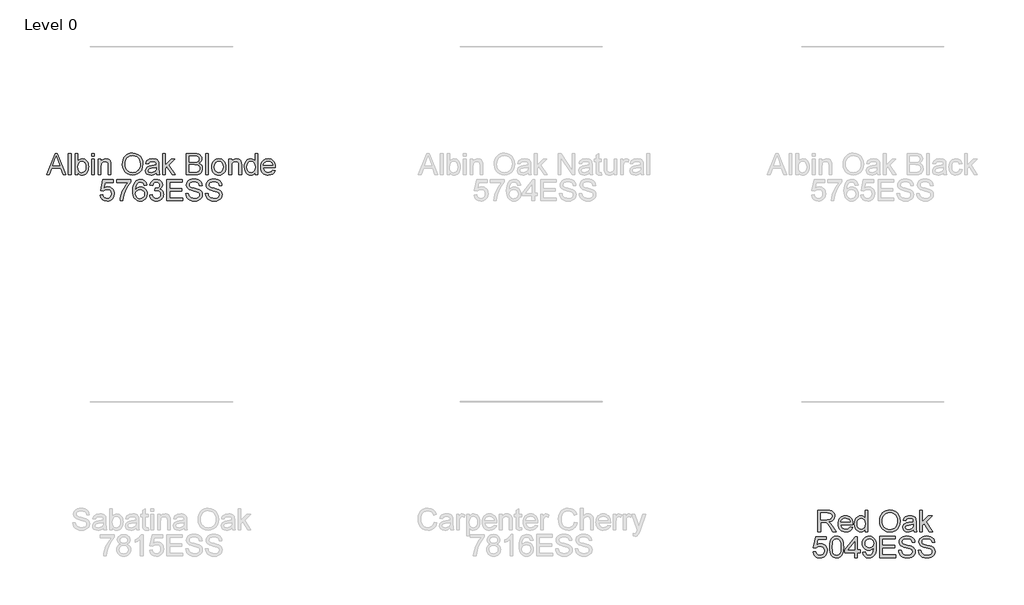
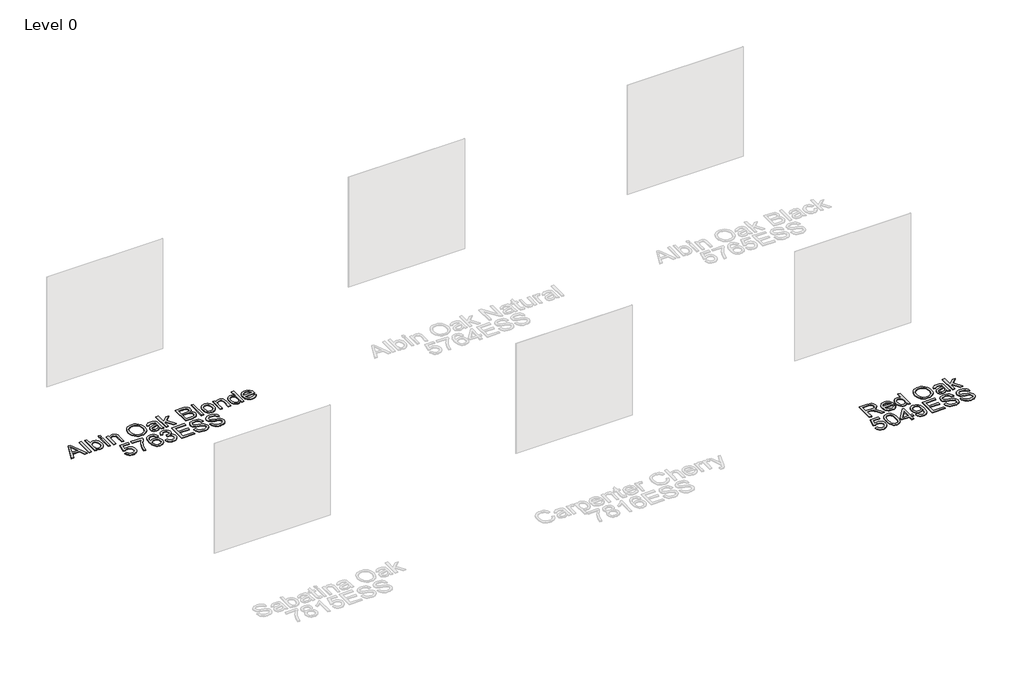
# One storey, part 35 of 43: 2 proxies.
"""IFC4 building model written with IfcOpenShell, lengths in millimetres."""

from ifc_helpers import new_model, si_unit, origin, origin_with_axes, place, context, project, spatial, polyline, outline, extrude, element, save

model = new_model("IFC4")

# Units and contexts
model_context = context("Model", 3, world=origin())
ifc_project = project(units=[si_unit("LENGTHUNIT", "METRE", prefix="MILLI")], contexts=[model_context])

# Site, building, storey
site = spatial("IfcSite", under=ifc_project)
building = spatial("IfcBuilding", under=site)
storey = spatial("IfcBuildingStorey", under=building, Name="Level 0", Elevation=0.0)

# Proxies
placement = place(None, origin())
element("IfcBuildingElementProxy", 1, Name="300mm Arial", ObjectType="300mm Arial", at=placement, inside=storey, context=model_context, shape_type="SweptSolid", body=[
    extrude(outline(polyline([(15934.4135613, -7003.860494), (16054.7109737, -6702.4915635), (16086.7902837, -6702.4915635), (16207.0876961, -7003.860494), (16167.2828642, -7003.860494), (16132.7755331, -6909.6827032), (16008.6521479, -6909.6827032), (15974.2183931, -7003.860494), (15934.4135613, -7003.860494)]), holes=[polyline([(16022.4845109, -6872.0115869), (16119.0167464, -6872.0115869), (16091.8670552, -6797.9201531), (16070.7506287, -6740.1626798), (16051.9886469, -6791.44543), (16022.4845109, -6872.0115869)])]), origin_with_axes(), (0.0, 0.0, 1.0), 10.0),
    extrude(outline(polyline([(16242.6250968, -7003.860494), (16242.6250968, -6702.4915635), (16280.2962131, -6702.4915635), (16280.2962131, -7003.860494), (16242.6250968, -7003.860494)])), origin_with_axes(), (0.0, 0.0, 1.0), 10.0),
    extrude(outline(polyline([(16374.4740039, -7003.860494), (16336.8028876, -7003.860494), (16336.8028876, -6702.4915635), (16374.4740039, -6702.4915635), (16374.4740039, -6814.2541137), (16386.8624301, -6798.3202248), (16400.851143, -6786.9388755), (16416.4401425, -6780.110066), (16433.6294287, -6777.8337961), (16453.035204, -6779.8847383), (16471.3741214, -6786.0375646), (16487.5977174, -6795.9059992), (16500.6575282, -6809.1037657), (16510.8938448, -6825.5021057), (16518.6469578, -6844.9722603), (16523.5305913, -6866.7048891), (16525.1584691, -6889.8906519), (16523.4731097, -6916.64487), (16518.4170316, -6940.1801206), (16509.9902346, -6960.4964038), (16498.1927189, -6977.5937195), (16484.0315613, -6991.1455725), (16468.5138389, -7000.8254675), (16451.6395516, -7006.6334045), (16433.4086995, -7008.5693835), (16415.6537947, -7006.0723845), (16399.9130439, -6998.5813874), (16386.1864469, -6986.0963921), (16374.4740039, -6968.6173988), (16374.4740039, -7003.860494)]), holes=[polyline([(16374.4740039, -6891.6564855), (16377.0491779, -6923.0736078), (16384.7746998, -6944.3371872), (16393.9027718, -6955.9576597), (16404.5115688, -6964.2579972), (16416.6010909, -6969.2381997), (16430.171338, -6970.8982672), (16451.9131639, -6966.0054367), (16470.4912046, -6951.3269451), (16483.2383158, -6926.9547629), (16487.4873528, -6892.9808606), (16483.4130597, -6858.5103177), (16471.1901804, -6834.414047), (16453.1915538, -6820.2321961), (16431.7900187, -6815.5049125), (16410.0481928, -6820.397743), (16391.4701521, -6835.0762346), (16378.7230409, -6859.0069584), (16374.4740039, -6891.6564855)])]), origin_with_axes(), (0.0, 0.0, 1.0), 10.0),
    extrude(outline(polyline([(16567.538475, -6740.1626798), (16567.538475, -6702.4915635), (16605.2095913, -6702.4915635), (16605.2095913, -6740.1626798), (16567.538475, -6740.1626798)])), origin_with_axes(), (0.0, 0.0, 1.0), 10.0),
    extrude(outline(polyline([(16567.538475, -7003.860494), (16567.538475, -6782.5426857), (16605.2095913, -6782.5426857), (16605.2095913, -7003.860494), (16567.538475, -7003.860494)])), origin_with_axes(), (0.0, 0.0, 1.0), 10.0),
    extrude(outline(polyline([(16661.7162657, -7003.860494), (16661.7162657, -6782.5426857), (16699.387382, -6782.5426857), (16699.387382, -6813.4447733), (16712.474784, -6797.8649708), (16728.1925423, -6786.7365404), (16746.5406568, -6780.0594822), (16767.5191275, -6777.8337961), (16786.0879712, -6779.6272209), (16803.0933165, -6785.0074951), (16817.2751674, -6793.303234), (16827.3735282, -6803.8430532), (16838.6675054, -6831.5445674), (16840.6540682, -6867.964885), (16840.6540682, -7003.860494), (16802.9829519, -7003.860494), (16802.9829519, -6873.0416565), (16798.6419443, -6839.7115477), (16792.6362708, -6829.7879309), (16783.3012651, -6822.0900002), (16771.3359032, -6817.1511844), (16757.4391609, -6815.5049125), (16735.3754382, -6819.2021265), (16716.5674712, -6830.2937687), (16709.0511822, -6839.3482643), (16703.6824043, -6851.7228949), (16699.387382, -6886.4325611), (16699.387382, -7003.860494), (16661.7162657, -7003.860494)])), origin_with_axes(), (0.0, 0.0, 1.0), 10.0),
    extrude(outline(polyline([(17000.7563125, -6857.1491543), (17003.2671071, -6821.8002931), (17010.799491, -6790.5073309), (17023.353464, -6763.2702677), (17040.9290264, -6740.0891034), (17062.4731157, -6721.5800406), (17086.9326699, -6708.3592814), (17114.3076888, -6700.4268258), (17144.5981726, -6697.782674), (17184.127093, -6702.7490809), (17219.5725232, -6717.6483017), (17249.0030828, -6741.4318727), (17270.4873913, -6773.0513302), (17283.6207786, -6810.9799639), (17287.9985743, -6853.6910636), (17283.3908523, -6896.9723803), (17269.5676864, -6935.4344429), (17247.2924316, -6967.1090827), (17217.328443, -6990.028131), (17182.1865155, -7003.9340704), (17144.3774434, -7008.5693835), (17104.2415177, -7003.4466267), (17068.5937524, -6988.0783564), (17039.2367692, -6963.853327), (17017.9731899, -6932.1602931), (17005.0605318, -6895.6939903), (17000.7563125, -6857.1491543)]), holes=[polyline([(17038.4274288, -6857.5170363), (17040.3105248, -6882.4916252), (17045.9598126, -6904.661114), (17055.3752925, -6924.0255025), (17068.5569642, -6940.5847908), (17084.5805243, -6953.8469367), (17102.5216694, -6963.3198981), (17122.3803994, -6969.0036749), (17144.1567142, -6970.8982672), (17166.3055096, -6968.9852808), (17186.3987643, -6963.2463217), (17204.4364784, -6953.6813898), (17220.4186518, -6940.2904852), (17233.5037545, -6923.381709), (17242.8502565, -6903.2631624), (17248.4581576, -6879.9348454), (17250.327458, -6853.396758), (17247.1268847, -6820.0482551), (17237.5251646, -6791.2247008), (17221.7706181, -6767.6526619), (17200.1115657, -6750.0587055), (17173.982747, -6739.1050191), (17144.8189018, -6735.4537903), (17123.7990443, -6737.2127261), (17104.2967, -6742.4895335), (17086.311869, -6751.2842124), (17069.8445512, -6763.5967629), (17056.0995601, -6780.0203948), (17046.2817094, -6801.1483176), (17040.3909989, -6826.9805314), (17038.4274288, -6857.5170363)])]), origin_with_axes(), (0.0, 0.0, 1.0), 10.0),
    extrude(outline(polyline([(17476.3541558, -6975.6071568), (17458.3555292, -6991.0398064), (17439.8234737, -7001.1381672), (17420.334925, -7006.7115794), (17399.4668189, -7008.5693835), (17367.9853171, -7004.0996173), (17344.7627662, -6990.6903186), (17330.4429595, -6970.3280501), (17325.6696906, -6944.9993748), (17327.4723124, -6929.3827841), (17332.8801777, -6915.2009331), (17341.221902, -6903.0608273), (17351.8261005, -6893.5694718), (17378.2032395, -6881.2086368), (17410.7975843, -6875.5432541), (17449.3148292, -6869.5835657), (17476.1334267, -6862.5938078), (17476.3541558, -6854.2060983), (17473.7605878, -6837.3938912), (17465.9798836, -6826.3942195), (17448.5790652, -6818.2272392), (17424.3356417, -6815.5049125), (17401.89484, -6817.3167313), (17386.223067, -6822.7521878), (17375.5360951, -6832.8045633), (17368.0496965, -6848.4671392), (17330.3785802, -6843.7582497), (17336.9176826, -6823.156858), (17346.6757525, -6806.9700502), (17360.5632979, -6794.590821), (17379.4908265, -6785.4121652), (17402.6398011, -6779.7283884), (17429.1916841, -6777.8337961), (17454.6583152, -6779.5076592), (17474.8458397, -6784.5292485), (17490.0669572, -6792.0800264), (17500.6343675, -6801.3414556), (17507.6425195, -6812.7917827), (17512.1858622, -6826.9092543), (17514.0252722, -6859.8714811), (17514.0252722, -6906.7396473), (17515.9382585, -6972.1858542), (17523.4430512, -7003.860494), (17485.7719349, -7003.860494), (17476.3541558, -6975.6071568)]), holes=[polyline([(17476.3541558, -6900.2649241), (17415.5800502, -6911.8164188), (17383.1696465, -6917.9232599), (17368.4911549, -6927.8560738), (17363.3408069, -6942.3506244), (17366.1459071, -6953.5526311), (17374.5612078, -6962.7312869), (17388.4027679, -6968.8565221), (17407.4866464, -6970.8982672), (17427.7201561, -6968.64499), (17445.5992211, -6961.8851583), (17460.0937717, -6951.9247533), (17470.1737383, -6940.069756), (17474.6435046, -6927.8560738), (17476.1334267, -6910.933502), (17476.3541558, -6900.2649241)])]), origin_with_axes(), (0.0, 0.0, 1.0), 10.0),
    extrude(outline(polyline([(17565.8230571, -7003.860494), (17565.8230571, -6702.4915635), (17603.4941734, -6702.4915635), (17603.4941734, -6864.4332178), (17687.9598795, -6782.5426857), (17740.05197, -6782.5426857), (17654.5561943, -6865.4632874), (17744.7608595, -7003.860494), (17700.7621729, -7003.860494), (17627.5536559, -6891.6564855), (17603.4941734, -6914.9802039), (17603.4941734, -7003.860494), (17565.8230571, -7003.860494)])), origin_with_axes(), (0.0, 0.0, 1.0), 10.0),
    extrude(outline(polyline([(17900.1542143, -7003.860494), (17900.1542143, -6702.4915635), (18015.154126, -6702.4915635), (18046.7827805, -6704.7080526), (18071.4768594, -6711.3575196), (18090.4043881, -6722.6055116), (18104.7333918, -6738.6175755), (18113.7556977, -6757.4531336), (18116.7631331, -6777.1716086), (18114.2339443, -6795.317388), (18106.6463782, -6812.3779155), (18093.9452523, -6827.3047274), (18076.0753844, -6839.0493601), (18097.4217372, -6850.1961846), (18113.1946777, -6867.1555446), (18122.9343535, -6888.8054), (18126.1809121, -6914.0237108), (18123.9644231, -6935.0389697), (18117.314956, -6954.5275184), (18107.3913392, -6971.1006023), (18095.3524009, -6983.3694669), (18080.60953, -6992.253817), (18062.5741152, -6998.6733578), (18014.2712092, -7003.860494), (17900.1542143, -7003.860494)]), holes=[polyline([(17937.8253306, -6824.9226915), (18006.6192637, -6824.9226915), (18046.7919776, -6821.68533), (18060.8542668, -6816.1027207), (18070.9618247, -6807.7426024), (18077.0594687, -6796.7337336), (18079.0920167, -6783.2048733), (18077.1974245, -6770.071486), (18071.5136476, -6758.630356), (18062.2982037, -6749.7000206), (18049.8086099, -6744.0990172), (18001.3953394, -6740.1626798), (17937.8253306, -6740.1626798), (17937.8253306, -6824.9226915)]), polyline([(17937.8253306, -6966.1893777), (18015.0805496, -6966.1893777), (18043.0395812, -6964.7178497), (18066.6943935, -6956.5140812), (18082.3661665, -6939.7754504), (18086.9738885, -6927.9480443), (18088.5097958, -6914.3915928), (18086.707174, -6898.6462434), (18081.2993087, -6885.1081859), (18071.8539385, -6874.5223815), (18057.938802, -6867.6337912), (18038.2295241, -6863.8538037), (18011.4017296, -6862.5938078), (17937.8253306, -6862.5938078), (17937.8253306, -6966.1893777)])]), origin_with_axes(), (0.0, 0.0, 1.0), 10.0),
    extrude(outline(polyline([(18173.2698075, -7003.860494), (18173.2698075, -6702.4915635), (18210.9409238, -6702.4915635), (18210.9409238, -7003.860494), (18173.2698075, -7003.860494)])), origin_with_axes(), (0.0, 0.0, 1.0), 10.0),
    extrude(outline(polyline([(18258.0298192, -6893.2015898), (18260.0669657, -6864.5389839), (18266.1784054, -6839.8403064), (18276.3641381, -6819.1055575), (18290.624164, -6802.334737), (18304.9807588, -6791.6155754), (18320.8272758, -6783.9590314), (18338.1637148, -6779.3651049), (18356.9900759, -6777.8337961), (18377.7731094, -6779.698498), (18396.5649815, -6785.2926036), (18413.3656924, -6794.6161129), (18428.175242, -6807.669026), (18440.2624648, -6824.0098843), (18448.8961953, -6843.1972296), (18454.0764337, -6865.2310619), (18455.8031798, -6890.1113811), (18452.7497592, -6928.1687735), (18443.5894976, -6957.1394806), (18428.5891092, -6978.8353213), (18408.0153086, -6995.0681143), (18383.5787471, -7005.1940662), (18356.9900759, -7008.5693835), (18335.9035398, -7006.7115794), (18316.9369237, -7001.1381672), (18300.0902276, -6991.8491468), (18285.3634514, -6978.8445183), (18273.4049873, -6962.3450108), (18264.8632273, -6942.5713536), (18259.7381712, -6919.5235466), (18258.0298192, -6893.2015898)]), holes=[polyline([(18295.7009355, -6893.1280134), (18300.0603372, -6927.2214773), (18313.1385421, -6951.5108861), (18332.8202288, -6966.0514219), (18356.9900759, -6970.8982672), (18381.0495584, -6966.0238308), (18400.6944569, -6951.4005215), (18413.7726619, -6926.789216), (18418.1320635, -6891.950791), (18413.7450707, -6858.8506085), (18400.5840923, -6834.8922936), (18380.9116026, -6820.3517577), (18356.9900759, -6815.5049125), (18332.8202288, -6820.3333636), (18313.1385421, -6834.8187172), (18300.0603372, -6859.0529436), (18295.7009355, -6893.1280134)])]), origin_with_axes(), (0.0, 0.0, 1.0), 10.0),
    extrude(outline(polyline([(18498.1831857, -7003.860494), (18498.1831857, -6782.5426857), (18535.854302, -6782.5426857), (18535.854302, -6813.4447733), (18548.9417039, -6797.8649708), (18564.6594622, -6786.7365404), (18583.0075767, -6780.0594822), (18603.9860475, -6777.8337961), (18622.5548912, -6779.6272209), (18639.5602364, -6785.0074951), (18653.7420873, -6793.303234), (18663.8404481, -6803.8430532), (18675.1344253, -6831.5445674), (18677.1209881, -6867.964885), (18677.1209881, -7003.860494), (18639.4498718, -7003.860494), (18639.4498718, -6873.0416565), (18635.1088643, -6839.7115477), (18629.1031907, -6829.7879309), (18619.7681851, -6822.0900002), (18607.8028232, -6817.1511844), (18593.9060808, -6815.5049125), (18571.8423581, -6819.2021265), (18553.0343911, -6830.2937687), (18545.5181021, -6839.3482643), (18540.1493243, -6851.7228949), (18535.854302, -6886.4325611), (18535.854302, -7003.860494), (18498.1831857, -7003.860494)])), origin_with_axes(), (0.0, 0.0, 1.0), 10.0),
    extrude(outline(polyline([(18865.4765696, -7003.860494), (18865.4765696, -6968.3230932), (18854.205585, -6985.9308452), (18840.5525645, -6998.507811), (18824.517508, -7006.0539904), (18806.1004156, -7008.5693835), (18781.7466275, -7004.9273518), (18759.4529786, -6994.0012565), (18740.5806323, -6976.5544529), (18726.4907519, -6953.350296), (18717.7167663, -6925.3268851), (18714.7921044, -6893.422319), (18717.48684, -6861.9132261), (18725.5710469, -6833.4575538), (18739.0355279, -6809.6739828), (18757.871086, -6792.181194), (18780.6521786, -6781.4206456), (18805.9532628, -6777.8337961), (18824.3841508, -6780.3997731), (18840.6813232, -6788.0977038), (18854.4952921, -6799.8975188), (18865.4765696, -6814.7691485), (18865.4765696, -6702.4915635), (18903.1476859, -6702.4915635), (18903.1476859, -7003.860494), (18865.4765696, -7003.860494)]), holes=[polyline([(18752.4632207, -6893.2751662), (18756.7122578, -6927.350236), (18769.4593689, -6951.5844625), (18787.9822274, -6966.069816), (18809.5585064, -6970.8982672), (18831.1255883, -6966.2905452), (18849.1793973, -6952.4673793), (18861.4022765, -6929.1712519), (18865.4765696, -6896.1446458), (18861.3287001, -6860.037028), (18848.8850917, -6835.0026582), (18830.3714302, -6820.3793489), (18808.013402, -6815.5049125), (18786.2163938, -6820.1862108), (18768.3557229, -6834.230106), (18756.4363463, -6858.3539678), (18752.4632207, -6893.2751662)])]), origin_with_axes(), (0.0, 0.0, 1.0), 10.0),
    extrude(outline(polyline([(19114.6062568, -6937.9360404), (19151.5416091, -6942.64493), (19138.2334779, -6970.4752029), (19116.9974897, -6991.2789297), (19088.3118912, -7004.2467701), (19052.6549288, -7008.5693835), (19029.2806265, -7006.7046817), (19008.4539071, -7001.1105761), (18990.1747704, -6991.7870668), (18974.4432166, -6978.7341537), (18961.7926745, -6962.3151204), (18952.756573, -6942.8932503), (18947.3349121, -6920.4685435), (18945.5276918, -6895.0409998), (18947.3533062, -6868.7512327), (18952.8301494, -6845.5792656), (18961.9582214, -6825.5250983), (18974.7375222, -6808.5887309), (18990.4276893, -6795.133447), (19008.2883602, -6785.5225298), (19028.3195348, -6779.7559796), (19050.5212132, -6777.8337961), (19072.007821, -6779.751381), (19091.4388881, -6785.5041357), (19108.8144146, -6795.0920602), (19124.1344004, -6808.5151545), (19136.640089, -6825.4147337), (19145.5727237, -6845.4321128), (19150.9323045, -6868.5672917), (19152.7188315, -6894.8202706), (19152.4981023, -6904.9738137), (18983.1988081, -6904.9738137), (18989.7195165, -6933.1719686), (19004.8670576, -6953.902119), (19026.7284452, -6966.6492302), (19053.3906928, -6970.8982672), (19073.4402615, -6968.9300985), (19090.3260451, -6963.0255925), (19104.0480435, -6952.8168672), (19114.6062568, -6937.9360404)]), holes=[polyline([(18983.1988081, -6867.3026974), (19115.0477152, -6867.3026974), (19109.9525495, -6847.4002814), (19099.9645534, -6833.1632482), (19078.0019983, -6819.9194964), (19050.3740604, -6815.5049125), (19024.9810057, -6819.0273826), (19003.9841408, -6829.5947929), (18989.3884227, -6846.0667092), (18983.1988081, -6867.3026974)])]), origin_with_axes(), (0.0, 0.0, 1.0), 10.0),
    extrude(outline(polyline([(16689.969603, -7289.7338254), (16727.6407193, -7285.0249358), (16734.5569008, -7307.6404815), (16746.6234302, -7323.8364863), (16763.7851253, -7333.5761621), (16785.9868037, -7336.8227207), (16812.9893421, -7332.3069693), (16833.2228519, -7318.7597148), (16845.8595984, -7297.7444558), (16850.0718473, -7270.8246908), (16846.1263129, -7245.4776213), (16834.2897097, -7226.0902402), (16814.4700672, -7213.7845875), (16786.5754149, -7209.6827032), (16768.3008768, -7211.3197781), (16753.5028235, -7216.2310027), (16732.3496088, -7233.2271509), (16694.6784925, -7228.5182614), (16727.6407193, -7073.1249066), (16873.616295, -7073.1249066), (16873.616295, -7110.7960229), (16758.1013485, -7110.7960229), (16741.9881171, -7193.790201), (16768.898685, -7177.4562404), (16797.09684, -7172.0115869), (16815.4426552, -7173.6992456), (16832.2939498, -7178.7622215), (16847.6507239, -7187.2005148), (16861.5129773, -7199.0141254), (16872.9885963, -7213.4810848), (16881.185467, -7229.8794248), (16886.1035894, -7248.2091452), (16887.7429636, -7268.470246), (16881.8384575, -7306.1413624), (16874.457825, -7322.9351754), (16864.1249395, -7338.3678251), (16848.4715606, -7354.1729553), (16830.2062195, -7365.4623341), (16809.3289163, -7372.2359613), (16785.8396509, -7374.4938371), (16748.8399192, -7368.6904986), (16733.1612485, -7361.4363255), (16719.3633744, -7351.2804832), (16707.8831569, -7338.7288093), (16699.1574558, -7324.2871418), (16689.969603, -7289.7338254)])), origin_with_axes(), (0.0, 0.0, 1.0), 10.0),
    extrude(outline(polyline([(16920.7051903, -7110.7960229), (16920.7051903, -7073.1249066), (17118.4785509, -7073.1249066), (17118.4785509, -7103.5855358), (17090.2895931, -7139.2608923), (17062.3765467, -7184.6299393), (17037.7560441, -7235.5540045), (17019.4447178, -7287.8944154), (17010.4683972, -7327.0554538), (17005.465202, -7369.7849475), (16967.7940857, -7369.7849475), (16971.8683788, -7330.9550029), (16982.7668829, -7284.8042066), (17000.1952924, -7235.8850983), (17023.8593018, -7188.7502177), (17051.4872396, -7146.1402856), (17080.8074346, -7110.7960229), (16920.7051903, -7110.7960229)])), origin_with_axes(), (0.0, 0.0, 1.0), 10.0),
    extrude(outline(polyline([(17344.5052488, -7148.4671392), (17306.8341325, -7153.1760288), (17300.7640796, -7134.5060175), (17292.5603111, -7121.7589064), (17275.4721924, -7110.0050766), (17254.8156184, -7106.0871334), (17237.3044354, -7108.3680017), (17220.823322, -7115.2106069), (17206.6690622, -7129.622384), (17195.1083705, -7149.4604206), (17187.3000752, -7177.5206198), (17184.4030045, -7216.5988847), (17199.5137574, -7198.9681401), (17217.6227486, -7186.5429257), (17237.7183026, -7179.1760888), (17258.7887439, -7176.7204764), (17276.8885381, -7178.3989381), (17293.5903806, -7183.4343229), (17308.8942716, -7191.8266309), (17322.8002111, -7203.5758621), (17334.3563042, -7217.9830407), (17342.6106565, -7234.349191), (17347.5632679, -7252.6743129), (17349.2141383, -7272.9584064), (17346.1055355, -7299.9333537), (17336.7797269, -7324.9401323), (17322.0092648, -7346.1485293), (17302.5667013, -7361.7283318), (17279.3349533, -7371.3024607), (17253.1969376, -7374.4938371), (17230.740041, -7372.3785156), (17210.4582468, -7366.0325512), (17192.3515548, -7355.4559438), (17176.4199652, -7340.6486935), (17163.4314315, -7320.9854009), (17154.1539074, -7295.8406665), (17148.587393, -7265.2144904), (17146.7318882, -7229.1068726), (17148.7920273, -7188.6260575), (17154.9724449, -7154.0773396), (17165.2731407, -7125.4607189), (17179.6941149, -7102.7761954), (17195.3245012, -7087.7436174), (17213.447288, -7077.0060617), (17234.0624753, -7070.5635282), (17257.1700631, -7068.4160171), (17290.2242604, -7073.7319119), (17316.6933699, -7089.6795964), (17335.2346225, -7115.0082718), (17344.5052488, -7148.4671392)]), holes=[polyline([(17184.4030045, -7272.3697952), (17186.5827053, -7289.0624407), (17193.1218078, -7305.0009282), (17203.2753508, -7318.7045325), (17216.2983735, -7328.6925287), (17232.0161317, -7334.7901727), (17250.2538816, -7336.8227207), (17275.1135074, -7332.6104719), (17294.6572384, -7319.9737254), (17307.3215761, -7300.1080976), (17311.543022, -7274.2092052), (17307.3767584, -7249.3495793), (17294.8779676, -7230.3944595), (17275.0031428, -7218.3923095), (17248.7087772, -7214.3915928), (17223.8859396, -7218.3923095), (17203.128198, -7230.3944595), (17189.0843029, -7248.8897269), (17184.4030045, -7272.3697952)])]), origin_with_axes(), (0.0, 0.0, 1.0), 10.0),
    extrude(outline(polyline([(17382.1763651, -7289.7338254), (17419.8474814, -7285.0249358), (17428.2811761, -7308.6981422), (17440.6328141, -7324.6826149), (17457.5094006, -7333.7876943), (17479.517941, -7336.8227207), (17505.3432571, -7332.6472601), (17525.2824612, -7320.1208782), (17538.0295723, -7301.4324728), (17542.2786094, -7278.7709419), (17538.0663605, -7257.2590422), (17525.429614, -7239.8122386), (17506.2997503, -7228.2515469), (17482.6081498, -7224.397983), (17456.1942225, -7228.5182614), (17460.3880773, -7190.8471451), (17466.421342, -7191.2886035), (17488.9909024, -7188.5846708), (17509.1692298, -7180.4728728), (17523.406263, -7166.7508744), (17528.1519408, -7147.2163404), (17524.7122441, -7130.9467592), (17514.3931542, -7117.7489926), (17498.6478048, -7109.0025982), (17478.9293298, -7106.0871334), (17459.1740667, -7109.0301893), (17443.0240471, -7117.8593572), (17431.2334291, -7132.574637), (17424.5563709, -7153.1760288), (17386.8852546, -7148.4671392), (17397.9768968, -7114.6403898), (17417.7137658, -7089.3852908), (17444.7163043, -7073.6583355), (17477.6049546, -7068.4160171), (17501.2873581, -7071.0003881), (17523.038381, -7078.7535011), (17541.3772985, -7090.9855775), (17554.8233854, -7107.0068384), (17563.0731392, -7125.4653175), (17565.8230571, -7145.0090485), (17563.2110949, -7163.2192072), (17555.3752084, -7179.7371088), (17542.4257622, -7193.8085951), (17524.4731208, -7204.6795081), (17548.0543567, -7214.2076518), (17565.5287515, -7230.4312477), (17576.3444821, -7252.4673793), (17579.9497257, -7279.4331295), (17578.1471039, -7298.5445992), (17572.7392386, -7316.1477526), (17563.7261297, -7332.2425899), (17551.1077773, -7346.829111), (17535.7349084, -7358.9324287), (17518.4582502, -7367.5776555), (17499.2778027, -7372.7647917), (17478.1935658, -7374.4938371), (17459.1372785, -7373.0177105), (17441.7732483, -7368.589331), (17426.1014753, -7361.2086985), (17412.1219595, -7350.875813), (17400.4003194, -7338.1976797), (17391.5021737, -7323.781304), (17385.4275222, -7307.6266859), (17382.1763651, -7289.7338254)])), origin_with_axes(), (0.0, 0.0, 1.0), 10.0),
    extrude(outline(polyline([(17627.0386211, -7369.7849475), (17627.0386211, -7068.4160171), (17843.6475398, -7068.4160171), (17843.6475398, -7106.0871334), (17664.7097374, -7106.0871334), (17664.7097374, -7195.5560346), (17834.2297608, -7195.5560346), (17834.2297608, -7233.2271509), (17664.7097374, -7233.2271509), (17664.7097374, -7332.1138312), (17848.3564294, -7332.1138312), (17848.3564294, -7369.7849475), (17627.0386211, -7369.7849475)])), origin_with_axes(), (0.0, 0.0, 1.0), 10.0),
    extrude(outline(polyline([(17890.7364352, -7266.1893777), (17928.4075515, -7266.1893777), (17932.730165, -7287.0942721), (17940.5476574, -7303.8972822), (17952.7429455, -7317.2330045), (17970.1989462, -7327.7360355), (17991.5361019, -7334.5510494), (18015.3748552, -7336.8227207), (18036.362523, -7335.1028724), (18054.7382287, -7329.9433274), (18069.6282524, -7321.7763471), (18080.1588745, -7311.0341929), (18086.4220655, -7298.700949), (18088.5097958, -7285.7606998), (18086.9462973, -7273.1515444), (18082.2558019, -7262.2530403), (18072.7276582, -7252.9548229), (18056.651215, -7245.1465276), (18001.8000096, -7230.7623415), (17965.7935593, -7221.2433949), (17942.7549493, -7212.1843008), (17924.0021646, -7199.510766), (17910.7124276, -7184.1516928), (17902.7937676, -7166.4381747), (17900.1542143, -7146.7013056), (17903.419167, -7124.637583), (17913.2140251, -7104.0637824), (17929.2812713, -7086.6261758), (17951.363388, -7073.9710352), (17977.8692858, -7066.2731044), (18007.2078749, -7063.7071275), (18038.9928793, -7066.3926661), (18066.8047581, -7074.4492818), (18089.65023, -7087.7114277), (18106.5360136, -7106.013557), (18117.2229855, -7128.2152354), (18121.4720226, -7153.1760288), (18083.8009063, -7153.1760288), (18076.8847248, -7130.6984389), (18062.4637506, -7114.4748429), (18039.9309784, -7104.6523936), (18008.6794029, -7101.3782438), (17976.6920634, -7104.6156054), (17954.7479024, -7114.3276901), (17942.0559735, -7128.6199056), (17937.8253306, -7145.5976597), (17940.8235689, -7160.0738162), (17949.8182836, -7171.7172813), (17971.081863, -7182.1283418), (18011.3281532, -7192.7601314), (18052.8620305, -7202.8584922), (18077.9883708, -7211.669266), (18099.4634822, -7225.3360821), (18114.4454765, -7242.2034716), (18123.2470532, -7262.0874934), (18126.1809121, -7284.8042066), (18122.8055948, -7308.0267576), (18112.6796429, -7329.869751), (18096.2169236, -7348.668521), (18073.8313042, -7362.7584014), (18046.9115392, -7371.5599781), (18016.8463832, -7374.4938371), (17979.938622, -7371.3300519), (17949.5607662, -7361.8386964), (17925.363328, -7345.9829824), (17906.9968194, -7323.7261217), (17895.2062015, -7296.6132187), (17890.7364352, -7266.1893777)])), origin_with_axes(), (0.0, 0.0, 1.0), 10.0),
    extrude(outline(polyline([(18168.560918, -7266.1893777), (18206.2320343, -7266.1893777), (18210.5546477, -7287.0942721), (18218.3721401, -7303.8972822), (18230.5674283, -7317.2330045), (18248.0234289, -7327.7360355), (18269.3605847, -7334.5510494), (18293.1993379, -7336.8227207), (18314.1870058, -7335.1028724), (18332.5627114, -7329.9433274), (18347.4527352, -7321.7763471), (18357.9833573, -7311.0341929), (18364.2465483, -7298.700949), (18366.3342786, -7285.7606998), (18364.7707801, -7273.1515444), (18360.0802847, -7262.2530403), (18350.552141, -7252.9548229), (18334.4756978, -7245.1465276), (18279.6244923, -7230.7623415), (18243.618042, -7221.2433949), (18220.5794321, -7212.1843008), (18201.8266474, -7199.510766), (18188.5369103, -7184.1516928), (18180.6182504, -7166.4381747), (18177.9786971, -7146.7013056), (18181.2436498, -7124.637583), (18191.0385079, -7104.0637824), (18207.105754, -7086.6261758), (18229.1878708, -7073.9710352), (18255.6937685, -7066.2731044), (18285.0323576, -7063.7071275), (18316.817362, -7066.3926661), (18344.6292409, -7074.4492818), (18367.4747128, -7087.7114277), (18384.3604963, -7106.013557), (18395.0474683, -7128.2152354), (18399.2965053, -7153.1760288), (18361.625389, -7153.1760288), (18354.7092075, -7130.6984389), (18340.2882333, -7114.4748429), (18317.7554611, -7104.6523936), (18286.5038856, -7101.3782438), (18254.5165461, -7104.6156054), (18232.5723851, -7114.3276901), (18219.8804563, -7128.6199056), (18215.6498134, -7145.5976597), (18218.6480516, -7160.0738162), (18227.6427664, -7171.7172813), (18248.9063457, -7182.1283418), (18289.152636, -7192.7601314), (18330.6865132, -7202.8584922), (18355.8128535, -7211.669266), (18377.287965, -7225.3360821), (18392.2699592, -7242.2034716), (18401.071536, -7262.0874934), (18404.0053949, -7284.8042066), (18400.6300776, -7308.0267576), (18390.5041257, -7329.869751), (18374.0414064, -7348.668521), (18351.655787, -7362.7584014), (18324.736022, -7371.5599781), (18294.6708659, -7374.4938371), (18257.7631048, -7371.3300519), (18227.385249, -7361.8386964), (18203.1878108, -7345.9829824), (18184.8213022, -7323.7261217), (18173.0306842, -7296.6132187), (18168.560918, -7266.1893777)])), origin_with_axes(), (0.0, 0.0, 1.0), 10.0),
])
element("IfcBuildingElementProxy", 2, Name="300mm Arial", ObjectType="300mm Arial", at=placement, inside=storey, context=model_context, shape_type="SweptSolid", body=[
    extrude(outline(polyline([(26780.9756766, -12025.4059291), (26780.9756766, -11724.0369986), (26910.8380209, -11724.0369986), (26945.7408252, -11726.0695466), (26971.13388, -11732.1671907), (26989.6935266, -11743.4243798), (27004.0961067, -11760.9355627), (27013.3391418, -11782.6497975), (27016.4201536, -11806.5161419), (27011.3157909, -11836.2042189), (26996.0027028, -11860.8155244), (26984.4029237, -11870.8449073), (26970.0210369, -11878.8601363), (26932.9109407, -11888.8481324), (26954.3216728, -11904.9613638), (26984.8558784, -11943.7361261), (27035.1085589, -12025.4059291), (26991.3306015, -12025.4059291), (26952.1143808, -11962.9395663), (26923.7874672, -11921.58963), (26903.8850512, -11902.0550961), (26885.9691981, -11894.8813972), (26864.1170076, -11893.557022), (26818.646793, -11893.557022), (26818.646793, -12025.4059291), (26780.9756766, -12025.4059291)]), holes=[polyline([(26818.646793, -11855.8859057), (26902.9653462, -11855.8859057), (26927.1811786, -11854.5523334), (26945.9707515, -11850.5516168), (26960.1158142, -11843.6170411), (26970.398116, -11833.4818922), (26976.6613069, -11821.2222247), (26978.7490373, -11807.9140935), (26974.7667147, -11789.5383879), (26962.8197469, -11774.7311375), (26942.2643404, -11764.9638706), (26912.4567017, -11761.7081149), (26818.646793, -11761.7081149), (26818.646793, -11855.8859057)])]), origin_with_axes(), (0.0, 0.0, 1.0), 10.0),
    extrude(outline(polyline([(27232.5876139, -11959.4814755), (27269.5229662, -11964.1903651), (27256.2148351, -11992.020638), (27234.9788469, -12012.8243648), (27206.2932483, -12025.7922052), (27170.6362859, -12030.1148186), (27147.2619837, -12028.2501167), (27126.4352642, -12022.6560111), (27108.1561276, -12013.3325018), (27092.4245738, -12000.2795888), (27079.7740317, -11983.8605555), (27070.7379301, -11964.4386854), (27065.3162692, -11942.0139785), (27063.5090489, -11916.5864349), (27065.3346633, -11890.2966678), (27070.8115065, -11867.1247006), (27079.9395786, -11847.0705334), (27092.7188794, -11830.134166), (27108.4090465, -11816.678882), (27126.2697173, -11807.0679649), (27146.300892, -11801.3014146), (27168.5025704, -11799.3792312), (27189.9891781, -11801.2968161), (27209.4202453, -11807.0495708), (27226.7957718, -11816.6374953), (27242.1157576, -11830.0605896), (27254.6214462, -11846.9601688), (27263.5540809, -11866.9775478), (27268.9136617, -11890.1127268), (27270.7001886, -11916.3657057), (27270.4794594, -11926.5192488), (27101.1801652, -11926.5192488), (27107.7008736, -11954.7174037), (27122.8484148, -11975.4475541), (27144.7098023, -11988.1946652), (27171.3720499, -11992.4437023), (27191.4216187, -11990.4755336), (27208.3074022, -11984.5710276), (27222.0294007, -11974.3623022), (27232.5876139, -11959.4814755)]), holes=[polyline([(27101.1801652, -11888.8481324), (27233.0290723, -11888.8481324), (27227.9339067, -11868.9457165), (27217.9459105, -11854.7086833), (27195.9833554, -11841.4649315), (27168.3554176, -11837.0503475), (27142.9623628, -11840.5728176), (27121.965498, -11851.1402279), (27107.3697798, -11867.6121443), (27101.1801652, -11888.8481324)])]), origin_with_axes(), (0.0, 0.0, 1.0), 10.0),
    extrude(outline(polyline([(27444.9291015, -12025.4059291), (27444.9291015, -11989.8685283), (27433.6581169, -12007.4762803), (27420.0050964, -12020.053246), (27403.9700399, -12027.5994255), (27385.5529475, -12030.1148186), (27361.1991594, -12026.4727868), (27338.9055105, -12015.5466916), (27320.0331642, -11998.099888), (27305.9432838, -11974.8957311), (27297.1692982, -11946.8723201), (27294.2446363, -11914.9677541), (27296.9393719, -11883.4586612), (27305.0235788, -11855.0029889), (27318.4880598, -11831.2194179), (27337.323618, -11813.726629), (27360.1047105, -11802.9660807), (27385.4057947, -11799.3792312), (27403.8366827, -11801.9452081), (27420.1338551, -11809.6431389), (27433.947824, -11821.4429539), (27444.9291015, -11836.3145835), (27444.9291015, -11724.0369986), (27482.6002178, -11724.0369986), (27482.6002178, -12025.4059291), (27444.9291015, -12025.4059291)]), holes=[polyline([(27331.9157526, -11914.8206013), (27336.1647897, -11948.8956711), (27348.9119008, -11973.1298975), (27367.4347593, -11987.6152511), (27389.0110383, -11992.4437023), (27410.5781202, -11987.8359803), (27428.6319292, -11974.0128143), (27440.8548084, -11950.716687), (27444.9291015, -11917.6900809), (27440.781232, -11881.582463), (27428.3376236, -11856.5480933), (27409.8239622, -11841.924784), (27387.4659339, -11837.0503475), (27365.6689257, -11841.7316459), (27347.8082548, -11855.7755411), (27335.8888782, -11879.8994029), (27331.9157526, -11914.8206013)])]), origin_with_axes(), (0.0, 0.0, 1.0), 10.0),
    extrude(outline(polyline([(27647.4113517, -11878.6945894), (27649.9221463, -11843.3457282), (27657.4545302, -11812.052766), (27670.0085032, -11784.8157027), (27687.5840656, -11761.6345385), (27709.1281549, -11743.1254756), (27733.5877091, -11729.9047164), (27760.962728, -11721.9722609), (27791.2532118, -11719.3281091), (27830.7821322, -11724.294516), (27866.2275624, -11739.1937368), (27895.658122, -11762.9773078), (27917.1424305, -11794.5967653), (27930.2758178, -11832.525399), (27934.6536135, -11875.2364986), (27930.0458915, -11918.5178154), (27916.2227256, -11956.979878), (27893.9474708, -11988.6545177), (27863.9834822, -12011.573566), (27828.8415547, -12025.4795055), (27791.0324826, -12030.1148186), (27750.8965569, -12024.9920618), (27715.2487916, -12009.6237915), (27685.8918084, -11985.3987621), (27664.6282291, -11953.7057282), (27651.715571, -11917.2394254), (27647.4113517, -11878.6945894)]), holes=[polyline([(27685.082468, -11879.0624714), (27686.965564, -11904.0370603), (27692.6148518, -11926.2065491), (27702.0303317, -11945.5709376), (27715.2120034, -11962.1302259), (27731.2355635, -11975.3923718), (27749.1767086, -11984.8653332), (27769.0354386, -11990.54911), (27790.8117534, -11992.4437023), (27812.9605488, -11990.5307159), (27833.0538035, -11984.7917568), (27851.0915176, -11975.2268249), (27867.073691, -11961.8359203), (27880.1587937, -11944.9271441), (27889.5052957, -11924.8085975), (27895.1131968, -11901.4802805), (27896.9824972, -11874.942193), (27893.7819239, -11841.5936902), (27884.1802038, -11812.7701358), (27868.4256573, -11789.198097), (27846.7666049, -11771.6041406), (27820.6377862, -11760.6504542), (27791.473941, -11756.9992254), (27770.4540835, -11758.7581612), (27750.9517392, -11764.0349685), (27732.9669082, -11772.8296475), (27716.4995904, -11785.142198), (27702.7545993, -11801.5658298), (27692.9367486, -11822.6937527), (27687.0460381, -11848.5259665), (27685.082468, -11879.0624714)])]), origin_with_axes(), (0.0, 0.0, 1.0), 10.0),
    extrude(outline(polyline([(28123.0091951, -11997.1525918), (28105.0105684, -12012.5852415), (28086.4785129, -12022.6836023), (28066.9899642, -12028.2570145), (28046.1218581, -12030.1148186), (28014.6403563, -12025.6450524), (27991.4178054, -12012.2357536), (27977.0979987, -11991.8734852), (27972.3247298, -11966.5448098), (27974.1273516, -11950.9282191), (27979.5352169, -11936.7463682), (27987.8769412, -11924.6062624), (27998.4811397, -11915.1149069), (28024.8582787, -11902.7540719), (28057.4526235, -11897.0886891), (28095.9698684, -11891.1290008), (28122.7884659, -11884.1392429), (28123.0091951, -11875.7515334), (28120.415627, -11858.9393262), (28112.6349228, -11847.9396546), (28095.2341044, -11839.7726743), (28070.9906809, -11837.0503475), (28048.5498792, -11838.8621664), (28032.8781062, -11844.2976228), (28022.1911343, -11854.3499984), (28014.7047357, -11870.0125743), (27977.0336194, -11865.3036848), (27983.5727218, -11844.702293), (27993.3307918, -11828.5154852), (28007.2183371, -11816.1362561), (28026.1458657, -11806.9576003), (28049.2948403, -11801.2738235), (28075.8467233, -11799.3792312), (28101.3133544, -11801.0530943), (28121.5008789, -11806.0746835), (28136.7219964, -11813.6254615), (28147.2894067, -11822.8868907), (28154.2975587, -11834.3372178), (28158.8409014, -11848.4546894), (28160.6803114, -11881.4169161), (28160.6803114, -11928.2850823), (28162.5932977, -11993.7312893), (28170.0980904, -12025.4059291), (28132.4269741, -12025.4059291), (28123.0091951, -11997.1525918)]), holes=[polyline([(28123.0091951, -11921.8103592), (28062.2350894, -11933.3618539), (28029.8246857, -11939.468695), (28015.1461941, -11949.4015089), (28009.9958461, -11963.8960595), (28012.8009463, -11975.0980662), (28021.216247, -11984.276722), (28035.0578071, -11990.4019572), (28054.1416856, -11992.4437023), (28074.3751953, -11990.1904251), (28092.2542603, -11983.4305934), (28106.7488109, -11973.4701884), (28116.8287775, -11961.6151911), (28121.2985438, -11949.4015089), (28122.7884659, -11932.4789371), (28123.0091951, -11921.8103592)])]), origin_with_axes(), (0.0, 0.0, 1.0), 10.0),
    extrude(outline(polyline([(28212.4780963, -12025.4059291), (28212.4780963, -11724.0369986), (28250.1492126, -11724.0369986), (28250.1492126, -11885.9786529), (28334.6149187, -11804.0881208), (28386.7070092, -11804.0881208), (28301.2112335, -11887.0087225), (28391.4158987, -12025.4059291), (28347.4172121, -12025.4059291), (28274.2086951, -11913.2019205), (28250.1492126, -11936.525639), (28250.1492126, -12025.4059291), (28212.4780963, -12025.4059291)])), origin_with_axes(), (0.0, 0.0, 1.0), 10.0),
    extrude(outline(polyline([(26712.6967783, -12311.2792604), (26750.3678946, -12306.5703709), (26757.2840762, -12329.1859166), (26769.3506056, -12345.3819214), (26786.5123007, -12355.1215972), (26808.7139791, -12358.3681558), (26835.7165175, -12353.8524043), (26855.9500273, -12340.3051499), (26868.5867738, -12319.2898909), (26872.7990226, -12292.3701259), (26868.8534882, -12267.0230564), (26857.016885, -12247.6356753), (26837.1972426, -12235.3300225), (26809.3025903, -12231.2281383), (26791.0280522, -12232.8652132), (26776.2299989, -12237.7764378), (26755.0767842, -12254.772586), (26717.4056679, -12250.0636964), (26750.3678946, -12094.6703417), (26896.3434703, -12094.6703417), (26896.3434703, -12132.341458), (26780.8285238, -12132.341458), (26764.7152925, -12215.3356361), (26791.6258604, -12199.0016755), (26819.8240153, -12193.557022), (26838.1698306, -12195.2446806), (26855.0211252, -12200.3076566), (26870.3778993, -12208.7459499), (26884.2401527, -12220.5595604), (26895.7157717, -12235.0265199), (26903.9126424, -12251.4248598), (26908.8307648, -12269.7545802), (26910.4701389, -12290.0156811), (26904.5656329, -12327.6867974), (26897.1850004, -12344.4806105), (26886.8521149, -12359.9132602), (26871.198736, -12375.7183904), (26852.9333949, -12387.0077692), (26832.0560917, -12393.7813964), (26808.5668263, -12396.0392721), (26771.5670946, -12390.2359337), (26755.8884238, -12382.9817606), (26742.0905498, -12372.8259182), (26730.6103322, -12360.2742444), (26721.8846312, -12345.8325768), (26712.6967783, -12311.2792604)])), origin_with_axes(), (0.0, 0.0, 1.0), 10.0),
    extrude(outline(polyline([(26943.4323657, -12243.0739385), (26946.2006777, -12194.8354119), (26954.5056138, -12156.3641523), (26968.2644004, -12127.0715484), (26987.3942641, -12106.3689891), (27012.0331608, -12094.0633364), (27042.319046, -12089.9614521), (27065.5323999, -12092.3894733), (27086.3177326, -12099.6735368), (27103.7001569, -12111.5285341), (27116.7047854, -12127.6693567), (27126.5272347, -12147.9580487), (27134.3631212, -12172.2566545), (27139.495075, -12203.1127568), (27141.2057263, -12243.0739385), (27138.4650055, -12291.0365537), (27130.2428429, -12329.4158428), (27116.5668297, -12358.7360378), (27097.4645571, -12379.5213705), (27072.7704782, -12391.9097967), (27042.319046, -12396.0392721), (27021.5705015, -12394.2458474), (27003.1764017, -12388.8655732), (26987.1367467, -12379.8984496), (26973.4515365, -12367.3444765), (26960.3181493, -12344.6507559), (26950.9371584, -12316.3744261), (26945.3085639, -12282.5154869), (26943.4323657, -12243.0739385)]), holes=[polyline([(26981.103482, -12243.0003621), (26985.518066, -12302.2569545), (26991.0362959, -12322.5249532), (26998.7618178, -12336.5527535), (27018.4802927, -12352.9143052), (27042.319046, -12358.3681558), (27066.1577993, -12352.8959111), (27085.8762742, -12336.4791771), (27093.6017961, -12322.4283842), (27099.1200261, -12302.164984), (27103.53461, -12243.0003621), (27099.2671789, -12185.077342), (27093.9328899, -12164.8760219), (27086.4648854, -12150.5148286), (27066.7831987, -12133.3531335), (27041.8775876, -12127.6325685), (27018.2963517, -12132.6725518), (26999.350429, -12147.7925018), (26991.3673897, -12163.4274866), (26985.6652188, -12184.5071249), (26981.103482, -12243.0003621)])]), origin_with_axes(), (0.0, 0.0, 1.0), 10.0),
    extrude(outline(polyline([(27296.5990811, -12391.3303826), (27296.5990811, -12320.6970395), (27160.0412845, -12320.6970395), (27160.0412845, -12283.0259232), (27306.0168602, -12094.6703417), (27334.2701974, -12094.6703417), (27334.2701974, -12283.0259232), (27371.9413137, -12283.0259232), (27371.9413137, -12320.6970395), (27334.2701974, -12320.6970395), (27334.2701974, -12391.3303826), (27296.5990811, -12391.3303826)]), holes=[polyline([(27296.5990811, -12283.0259232), (27296.5990811, -12166.6280599), (27206.3944159, -12283.0259232), (27296.5990811, -12283.0259232)])]), origin_with_axes(), (0.0, 0.0, 1.0), 10.0),
    extrude(outline(polyline([(27409.61243, -12315.98815), (27447.2835463, -12311.2792604), (27453.7214812, -12332.6624014), (27464.2061181, -12347.2213314), (27478.4799395, -12355.5814497), (27496.2854281, -12358.3681558), (27512.2607037, -12356.5747311), (27526.7828455, -12351.1944569), (27538.8493749, -12342.8159445), (27547.4578136, -12332.027805), (27559.7818604, -12299.2863074), (27565.226514, -12255.5819264), (27565.0057848, -12248.2242865), (27551.955171, -12264.1535769), (27534.8762494, -12276.7719293), (27515.0014246, -12284.9940919), (27493.5631013, -12287.7348128), (27475.6679415, -12286.0609497), (27459.21212, -12281.0393604), (27444.1956368, -12272.670045), (27430.6184919, -12260.9530035), (27419.3682007, -12246.4998396), (27411.3322783, -12229.9221572), (27406.5107249, -12211.2199563), (27404.9035405, -12190.3932368), (27406.5888999, -12168.8721401), (27411.644978, -12149.5583354), (27420.071775, -12132.4518226), (27431.8692907, -12117.5526018), (27446.2051922, -12105.4814738), (27462.2471465, -12096.8592396), (27479.9951535, -12091.685899), (27499.4492132, -12089.9614521), (27527.5462006, -12093.8977895), (27553.1231963, -12105.7068015), (27574.5155343, -12124.7998771), (27590.0585486, -12150.5884049), (27599.522313, -12186.2361703), (27602.6769011, -12234.9069582), (27599.53151, -12286.5116051), (27590.0953368, -12326.3992104), (27574.451155, -12356.372396), (27552.6817379, -12378.2337836), (27525.7251847, -12391.5879), (27494.5195945, -12396.0392721), (27462.3115258, -12390.7877567), (27436.6149684, -12375.0332102), (27418.643933, -12349.7689142), (27409.61243, -12315.98815)]), holes=[polyline([(27565.0057848, -12189.51032), (27560.9406887, -12163.9793096), (27548.7454006, -12144.334411), (27529.8178719, -12131.8080291), (27505.5560543, -12127.6325685), (27480.3929259, -12132.1299258), (27460.2329925, -12145.621998), (27446.9892407, -12166.269375), (27442.5746568, -12192.2326468), (27446.7501174, -12215.51038), (27459.2764994, -12233.9872533), (27478.939792, -12246.0445856), (27504.5259848, -12250.0636964), (27528.5946643, -12246.0445856), (27547.9728484, -12233.9872533), (27560.7475507, -12214.8297984), (27565.0057848, -12189.51032)])]), origin_with_axes(), (0.0, 0.0, 1.0), 10.0),
    extrude(outline(polyline([(27649.7657965, -12391.3303826), (27649.7657965, -12089.9614521), (27866.3747152, -12089.9614521), (27866.3747152, -12127.6325685), (27687.4369128, -12127.6325685), (27687.4369128, -12217.1014697), (27856.9569361, -12217.1014697), (27856.9569361, -12254.772586), (27687.4369128, -12254.772586), (27687.4369128, -12353.6592663), (27871.0836048, -12353.6592663), (27871.0836048, -12391.3303826), (27649.7657965, -12391.3303826)])), origin_with_axes(), (0.0, 0.0, 1.0), 10.0),
    extrude(outline(polyline([(27913.4636106, -12287.7348128), (27951.1347269, -12287.7348128), (27955.4573403, -12308.6397071), (27963.2748327, -12325.4427173), (27975.4701209, -12338.7784396), (27992.9261216, -12349.2814705), (28014.2632773, -12356.0964845), (28038.1020306, -12358.3681558), (28059.0896984, -12356.6483075), (28077.465404, -12351.4887625), (28092.3554278, -12343.3217822), (28102.8860499, -12332.579628), (28109.1492409, -12320.2463841), (28111.2369712, -12307.3061349), (28109.6734727, -12294.6969795), (28104.9829773, -12283.7984754), (28095.4548336, -12274.500258), (28079.3783904, -12266.6919626), (28024.5271849, -12252.3077766), (27988.5207347, -12242.78883), (27965.4821247, -12233.7297359), (27946.72934, -12221.0562011), (27933.4396029, -12205.6971278), (27925.520943, -12187.9836098), (27922.8813897, -12168.2467407), (27926.1463424, -12146.1830181), (27935.9412005, -12125.6092175), (27952.0084466, -12108.1716109), (27974.0905634, -12095.5164703), (28000.5964612, -12087.8185395), (28029.9350503, -12085.2525626), (28061.7200547, -12087.9381012), (28089.5319335, -12095.9947169), (28112.3774054, -12109.2568628), (28129.263189, -12127.5589921), (28139.9501609, -12149.7606705), (28144.199198, -12174.7214638), (28106.5280817, -12174.7214638), (28099.6119002, -12152.2438739), (28085.1909259, -12136.0202779), (28062.6581537, -12126.1978287), (28031.4065783, -12122.9236789), (27999.4192388, -12126.1610405), (27977.4750778, -12135.8731251), (27964.7831489, -12150.1653407), (27960.552506, -12167.1430947), (27963.5507442, -12181.6192512), (27972.545459, -12193.2627164), (27993.8090383, -12203.6737769), (28034.0553286, -12214.3055665), (28075.5892059, -12224.4039273), (28100.7155461, -12233.2147011), (28122.1906576, -12246.8815172), (28137.1726519, -12263.7489067), (28145.9742286, -12283.6329285), (28148.9080875, -12306.3496417), (28145.5327702, -12329.5721927), (28135.4068183, -12351.4151861), (28118.944099, -12370.2139561), (28096.5584796, -12384.3038365), (28069.6387146, -12393.1054132), (28039.5735585, -12396.0392721), (28002.6657974, -12392.875487), (27972.2879416, -12383.3841315), (27948.0905034, -12367.5284175), (27929.7239948, -12345.2715568), (27917.9333768, -12318.1586538), (27913.4636106, -12287.7348128)])), origin_with_axes(), (0.0, 0.0, 1.0), 10.0),
    extrude(outline(polyline([(28191.2880934, -12287.7348128), (28228.9592097, -12287.7348128), (28233.2818231, -12308.6397071), (28241.0993155, -12325.4427173), (28253.2946036, -12338.7784396), (28270.7506043, -12349.2814705), (28292.08776, -12356.0964845), (28315.9265133, -12358.3681558), (28336.9141811, -12356.6483075), (28355.2898868, -12351.4887625), (28370.1799106, -12343.3217822), (28380.7105327, -12332.579628), (28386.9737236, -12320.2463841), (28389.061454, -12307.3061349), (28387.4979555, -12294.6969795), (28382.80746, -12283.7984754), (28373.2793164, -12274.500258), (28357.2028732, -12266.6919626), (28302.3516677, -12252.3077766), (28266.3452174, -12242.78883), (28243.3066075, -12233.7297359), (28224.5538228, -12221.0562011), (28211.2640857, -12205.6971278), (28203.3454257, -12187.9836098), (28200.7058724, -12168.2467407), (28203.9708251, -12146.1830181), (28213.7656833, -12125.6092175), (28229.8329294, -12108.1716109), (28251.9150462, -12095.5164703), (28278.4209439, -12087.8185395), (28307.759533, -12085.2525626), (28339.5445374, -12087.9381012), (28367.3564162, -12095.9947169), (28390.2018881, -12109.2568628), (28407.0876717, -12127.5589921), (28417.7746437, -12149.7606705), (28422.0236807, -12174.7214638), (28384.3525644, -12174.7214638), (28377.4363829, -12152.2438739), (28363.0154087, -12136.0202779), (28340.4826365, -12126.1978287), (28309.231061, -12122.9236789), (28277.2437215, -12126.1610405), (28255.2995605, -12135.8731251), (28242.6076317, -12150.1653407), (28238.3769887, -12167.1430947), (28241.375227, -12181.6192512), (28250.3699418, -12193.2627164), (28271.6335211, -12203.6737769), (28311.8798114, -12214.3055665), (28353.4136886, -12224.4039273), (28378.5400289, -12233.2147011), (28400.0151404, -12246.8815172), (28414.9971346, -12263.7489067), (28423.7987114, -12283.6329285), (28426.7325703, -12306.3496417), (28423.357253, -12329.5721927), (28413.231301, -12351.4151861), (28396.7685818, -12370.2139561), (28374.3829624, -12384.3038365), (28347.4631974, -12393.1054132), (28317.3980413, -12396.0392721), (28280.4902801, -12392.875487), (28250.1124244, -12383.3841315), (28225.9149862, -12367.5284175), (28207.5484775, -12345.2715568), (28195.7578596, -12318.1586538), (28191.2880934, -12287.7348128)])), origin_with_axes(), (0.0, 0.0, 1.0), 10.0),
])

save(model, "model.ifc")
